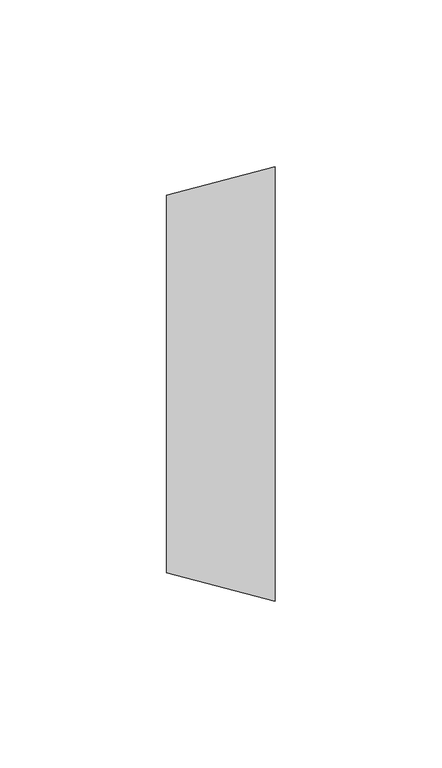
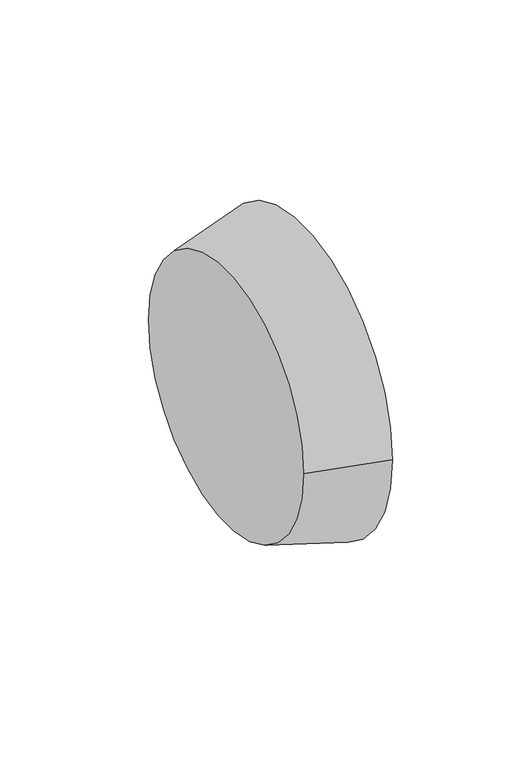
"""IFC4 building model written with IfcOpenShell, lengths in millimetres: pipe fitting geometry, M_Transición - Genérica : Estándar."""

import ifcopenshell
import ifcopenshell.guid

model = None  # the IFC model being written
_history = None  # IfcOwnerHistory: only IFC2X3 demands one
_inside = {}  # id of a spatial element -> (the spatial element, [elements in it])
_under = {}  # id of a project, library or spatial element -> (it, [spatial elements below it])
_declared = {}  # id of a project -> (the project, [libraries it declares])
_typed = {}  # id of a type object -> (the type object, [elements of that type])
_made_of = {}  # id of a material, layer set ... -> (it, [elements and type objects made of it])


def new_model(schema):
    """Start an empty IFC model of exactly this schema.

    Asked for "IFC4X3", IfcOpenShell would pick the latest addendum, in which some entities
    have other attributes; the version numbers below select the first issue.
    IFC2X3 requires an IfcOwnerHistory on every rooted entity: one is made here for all.
    """
    global model, _history
    if schema == "IFC4X3":
        model = ifcopenshell.file(schema_version=(4, 3, 0, 0))
    else:
        model = ifcopenshell.file(schema=schema)
    _inside.clear()
    _under.clear()
    _declared.clear()
    _typed.clear()
    _made_of.clear()
    _history = None
    if model.schema == "IFC2X3":
        org = make("IfcOrganization", Name="unknown")
        user = make(
            "IfcPersonAndOrganization",
            ThePerson=make("IfcPerson", FamilyName="unknown"),
            TheOrganization=org,
        )
        app = make(
            "IfcApplication",
            ApplicationDeveloper=org,
            Version="unknown",
            ApplicationFullName="unknown",
            ApplicationIdentifier="unknown",
        )
        _history = make(
            "IfcOwnerHistory",
            OwningUser=user,
            OwningApplication=app,
            ChangeAction="ADDED",
            CreationDate=0,
        )
    return model


def make(cls, **values):
    """One entity of the class cls with the attributes given. An attribute that is None is left unset."""
    return model.create_entity(
        cls, **{name: value for name, value in values.items() if value is not None}
    )


def rooted(cls, **values):
    """An entity with a GlobalId (a new one), such as an element, a storey or a relation."""
    return make(cls, GlobalId=ifcopenshell.guid.new(), OwnerHistory=_history, **values)


def si_unit(unit_type, name, prefix=None):
    """IfcSIUnit, for example si_unit("LENGTHUNIT", "METRE", prefix="MILLI")."""
    return make("IfcSIUnit", UnitType=unit_type, Prefix=prefix, Name=name)


def assignment(units):
    """IfcUnitAssignment: the units of a project."""
    return None if units is None else make("IfcUnitAssignment", Units=units)


def point(xyz):
    """IfcCartesianPoint."""
    return None if xyz is None else make("IfcCartesianPoint", Coordinates=xyz)


def direction(xyz):
    """IfcDirection."""
    return None if xyz is None else make("IfcDirection", DirectionRatios=xyz)


def frame(location, z_axis=None, x_axis=None):
    """IfcAxis2Placement3D, a coordinate frame: its origin and axes. An axis left out is left unset."""
    return make(
        "IfcAxis2Placement3D",
        Location=point(location),
        Axis=direction(z_axis),
        RefDirection=direction(x_axis),
    )


def origin():
    """The frame at (0, 0, 0) with its axes left unset."""
    return frame((0.0, 0.0, 0.0))


def place(relative_to, where):
    """IfcLocalPlacement: puts the frame where relative to a parent placement (None: the world)."""
    return make(
        "IfcLocalPlacement", PlacementRelTo=relative_to, RelativePlacement=where
    )


def context(
    kind, dimensions, precision=None, world=None, true_north=None, identifier=None
):
    """IfcGeometricRepresentationContext, for example the 3D "Model" context."""
    return make(
        "IfcGeometricRepresentationContext",
        ContextIdentifier=identifier,
        ContextType=kind,
        CoordinateSpaceDimension=dimensions,
        Precision=precision,
        WorldCoordinateSystem=world,
        TrueNorth=true_north,
    )


def project(units=None, contexts=None):
    """IfcProject with its units and contexts."""
    return rooted(
        "IfcProject",
        Name="project",
        RepresentationContexts=contexts,
        UnitsInContext=assignment(units),
    )


def spatial(cls, under=None, at=None, **own):
    """A site, building, storey or space (cls), placed at a placement, below another one or the project."""
    s = rooted(cls, ObjectPlacement=at, **own)
    if under is not None:
        _under.setdefault(under.id(), (under, []))[1].append(s)
    return s


def polyline(points):
    """IfcPolyline through the points."""
    return make("IfcPolyline", Points=[point(p) for p in points])


def circle_curve(where, radius):
    """IfcCircle in the frame where."""
    return make("IfcCircle", Position=where, Radius=radius)


def shape(context_of_items, identifier, shape_type, items):
    """IfcShapeRepresentation: the items that make up one representation, for example the "Body"."""
    return make(
        "IfcShapeRepresentation",
        ContextOfItems=context_of_items,
        RepresentationIdentifier=identifier,
        RepresentationType=shape_type,
        Items=items,
    )


def source(mapping_origin, context_of_items, identifier, shape_type, items):
    """IfcRepresentationMap: a shape defined once, which mapped items show again and again."""
    return make(
        "IfcRepresentationMap",
        MappingOrigin=mapping_origin,
        MappedRepresentation=shape(context_of_items, identifier, shape_type, items),
    )


def transform(
    local_origin,
    x_axis=None,
    y_axis=None,
    z_axis=None,
    scale=None,
    scale2=None,
    scale3=None,
    uniform=True,
):
    """IfcCartesianTransformationOperator3D, or its non-uniform kind. x_axis, y_axis, z_axis: its Axis1, 2, 3."""
    if uniform:
        return make(
            "IfcCartesianTransformationOperator3D",
            Axis1=direction(x_axis),
            Axis2=direction(y_axis),
            LocalOrigin=point(local_origin),
            Scale=scale,
            Axis3=direction(z_axis),
        )
    return make(
        "IfcCartesianTransformationOperator3DnonUniform",
        Axis1=direction(x_axis),
        Axis2=direction(y_axis),
        LocalOrigin=point(local_origin),
        Scale=scale,
        Axis3=direction(z_axis),
        Scale2=scale2,
        Scale3=scale3,
    )


def mapped(mapping_source, mapping_target):
    """IfcMappedItem: shows the shape of a source again, moved by a transform."""
    return make(
        "IfcMappedItem", MappingSource=mapping_source, MappingTarget=mapping_target
    )


def made_of(thing, what):
    """Note that an element or type object is made of a material, layer set ...; save() writes the relation."""
    if what is not None:
        _made_of.setdefault(what.id(), (what, []))[1].append(thing)
    return thing


def element(
    cls,
    number,
    at=None,
    inside=None,
    cuts=None,
    type_object=None,
    material=None,
    context=None,
    identifier="Body",
    shape_type=None,
    held_by="IfcProductDefinitionShape",
    body=None,
    shapes=None,
    **own,
):
    """One element of the class cls, such as IfcWall. Its Tag is "e" and its number.

    at: its placement. inside: the storey or other place that contains it. cuts: it is an
    opening in that element (IfcRelVoidsElement). A single representation is given by context,
    identifier, shape_type and body (its items); several are given by shapes. held_by: the class
    of the entity that holds the representations. save() writes the other relations.
    """
    e = rooted(cls, Tag="e%d" % number, ObjectPlacement=at, **own)
    if body is not None:
        shapes = [shape(context, identifier, shape_type, body)]
    if shapes is not None:
        e.Representation = make(held_by, Representations=shapes)
    if inside is not None:
        _inside.setdefault(inside.id(), (inside, []))[1].append(e)
    if cuts is not None:
        rooted(
            "IfcRelVoidsElement", RelatingBuildingElement=cuts, RelatedOpeningElement=e
        )
    if type_object is not None:
        _typed.setdefault(type_object.id(), (type_object, []))[1].append(e)
    return made_of(e, material)


def aggregate(whole, parts):
    """IfcRelAggregates: a whole, such as a stair, and the parts it consists of."""
    return rooted("IfcRelAggregates", RelatingObject=whole, RelatedObjects=parts)


def save(model, path):
    """Write the relations noted so far, then the file.

    IfcRelAggregates (storeys below a building ...), IfcRelContainedInSpatialStructure (elements
    in a storey), IfcRelDefinesByType, IfcRelAssociatesMaterial and IfcRelDeclares: one each for
    every whole, place, type object, material and project.
    """
    for whole, parts in _under.values():
        aggregate(whole, parts)
    for where, things in _inside.values():
        rooted(
            "IfcRelContainedInSpatialStructure",
            RelatedElements=things,
            RelatingStructure=where,
        )
    for kind, things in _typed.values():
        rooted("IfcRelDefinesByType", RelatedObjects=things, RelatingType=kind)
    for what, things in _made_of.values():
        rooted("IfcRelAssociatesMaterial", RelatedObjects=things, RelatingMaterial=what)
    for by, libraries in _declared.values():
        rooted("IfcRelDeclares", RelatingContext=by, RelatedDefinitions=libraries)
    model.write(path)


def plane_surface(at):
    """IfcPlane: the flat surface through the origin of the frame at, square to its z axis."""
    return make("IfcPlane", Position=at)


def revolved_surface(curve, axis_point, axis_direction):
    """IfcSurfaceOfRevolution: the curve turned about the line through axis_point along axis_direction."""
    return make(
        "IfcSurfaceOfRevolution",
        SweptCurve=make("IfcArbitraryOpenProfileDef", ProfileType="CURVE", Curve=curve),
        AxisPosition=make("IfcAxis1Placement", Location=point(axis_point), Axis=direction(axis_direction)),
    )


def advanced_brep(points, edges, surfaces, faces):
    """IfcAdvancedBrep: a solid bounded by faces that lie on surfaces and meet in shared edges.

    An edge is (start, end): straight between two places in points (the first is 0);
    or (start, end, curve); or (start, end, curve, False) where it runs against its curve.
    A face is (place in surfaces, loops), or (place, loops, False) where it looks against
    its surface's normal. A loop lists edges by number (the first is 1), with a minus sign
    where the edge is run from its end to its start. The first loop is the outer one.
    """
    corners = [point(p) for p in points]
    vertices = [make("IfcVertexPoint", VertexGeometry=c) for c in corners]
    made = []
    for start, end, *more in edges:
        made.append(
            make(
                "IfcEdgeCurve",
                EdgeStart=vertices[start],
                EdgeEnd=vertices[end],
                EdgeGeometry=more[0] if more else make("IfcPolyline", Points=[corners[start], corners[end]]),
                SameSense=more[1] if len(more) > 1 else True,
            )
        )
    hull = []
    for where, loops, *sense in faces:
        bounds = []
        for j, loop in enumerate(loops):
            ring = [make("IfcOrientedEdge", EdgeElement=made[abs(k) - 1], Orientation=k > 0) for k in loop]
            bounds.append(
                make(
                    "IfcFaceOuterBound" if j == 0 else "IfcFaceBound",
                    Bound=make("IfcEdgeLoop", EdgeList=ring),
                    Orientation=True,
                )
            )
        hull.append(make("IfcAdvancedFace", Bounds=bounds, FaceSurface=surfaces[where], SameSense=sense[0] if sense else True))
    return make("IfcAdvancedBrep", Outer=make("IfcClosedShell", CfsFaces=hull))


def pipe_fitting_9bc1c262(model_context):
    return source(origin(), model_context, "Body", "AdvancedBrep", [
        advanced_brep(
        [(32.54375, 65.0875, 0.0), (32.54375, -65.0875, 0.0), (0.0, 56.5875, 0.0), (0.0, -56.5875, 0.0)],
        [
            (0, 1, circle_curve(frame((32.54375, 0.0, 0.0), z_axis=(1.0, 0.0, 0.0), x_axis=(0.0, -1.0, 0.0)), 65.0875)),
            (1, 0, circle_curve(frame((32.54375, 0.0, 0.0), z_axis=(1.0, 0.0, 0.0), x_axis=(0.0, 1.0, 0.0)), 65.0875)),
            (2, 3, circle_curve(frame((0.0, 0.0, 0.0), z_axis=(-1.0, 0.0, 0.0), x_axis=(0.0, 1.0, 0.0)), 56.5875)),
            (3, 2, circle_curve(frame((0.0, 0.0, 0.0), z_axis=(-1.0, 0.0, 0.0), x_axis=(0.0, -1.0, 0.0)), 56.5875)),
            (2, 0),
            (1, 3),
        ],
        [
            plane_surface(frame((32.54375, 0.0, 0.0), z_axis=(1.0, 0.0, 0.0), x_axis=(0.0, 0.0, -1.0))),
            plane_surface(frame((0.0, 0.0, 0.0), z_axis=(-1.0, 0.0, 0.0), x_axis=(0.0, 0.0, -1.0))),
            revolved_surface(polyline([(0.0, 56.58750000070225, 0.0), (32.54375000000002, 65.0875, 0.0)]), (-216.6552298, 0.0, 0.0), (1.0, 0.0, 0.0)),
            revolved_surface(polyline([(0.0, -56.58750000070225, 0.0), (32.54375000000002, -65.0875, 0.0)]), (-216.6552298, 0.0, 0.0), (1.0, 0.0, 0.0)),
        ],
        [
            (0, [[1, 2]]),
            (1, [[3, 4]]),
            (2, [[5, -2, 6, -3]]),
            (3, [[-6, -1, -5, -4]]),
        ],
    ),
    ])


if __name__ == "__main__":
    model = new_model("IFC4")
    model_context = context("Model", 3, world=origin())
    ifc_project = project(units=[si_unit("LENGTHUNIT", "METRE", prefix="MILLI")], contexts=[model_context])
    site = spatial("IfcSite", under=ifc_project)
    building = spatial("IfcBuilding", under=site)
    placement = place(None, origin())
    pipe_fitting_shape = pipe_fitting_9bc1c262(model_context)
    element("IfcPipeFitting", 1, ObjectType="M_Transición - Genérica : Estándar", at=placement, inside=building, context=model_context, shape_type="MappedRepresentation", body=[
        mapped(pipe_fitting_shape, transform((0.0, 0.0, 0.0), x_axis=(1.0, 0.0, 0.0), y_axis=(0.0, 1.0, 0.0), z_axis=(0.0, 0.0, 1.0))),
    ])
    save(model, "model.ifc")
